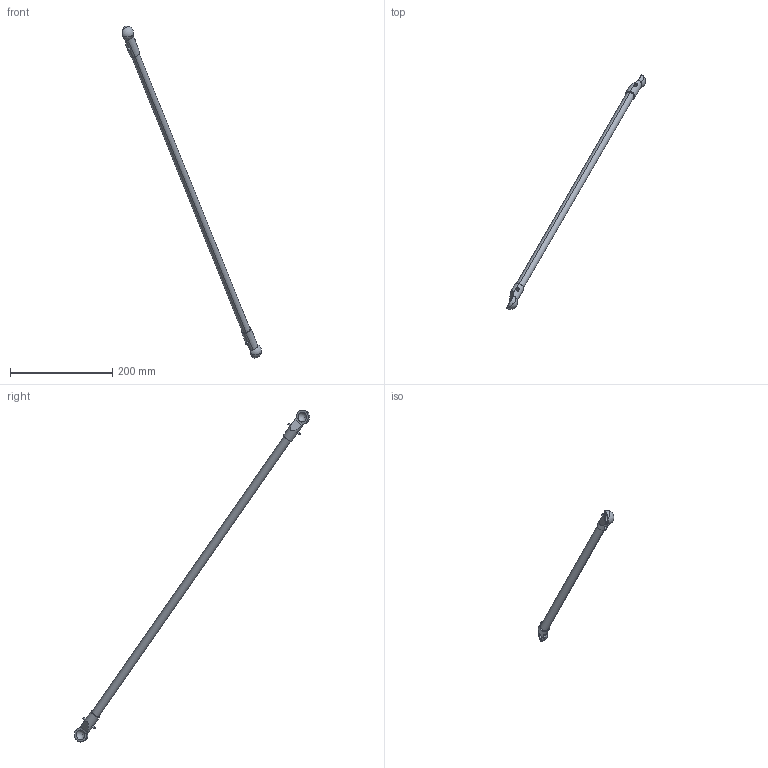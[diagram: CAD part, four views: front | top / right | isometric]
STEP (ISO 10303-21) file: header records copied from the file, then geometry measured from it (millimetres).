
FILE_DESCRIPTION (( 'STEP AP214' ), '1' );
FILE_NAME ('IRB360_8-1130-STD-4D_rev03_LA2_2_CAD.STEP', '2025-05-19T13:34:59', ( '' ), ( '' ), 'SwSTEP 2.0', 'SolidWorks 2022', '' );
FILE_SCHEMA (( 'AUTOMOTIVE_DESIGN' ));
Length unit declared in the file: millimetre
Products named in the file (1): IRB360_8-1130-STD-4D_rev03_LA2_2_CAD
Bounding box: 272.71 x 461.21 x 650.94 mm (x, y, z)
Volume: 172342 mm3; surface area: 44609 mm2
Topology: 1 solids, 1 shells, 38 faces, 99 edges, 63 vertices
Faces by surface type: cylinder 16, sphere 12, plane 10
Entity records: 1484 total; most frequent: CARTESIAN_POINT 435, DIRECTION 188, ORIENTED_EDGE 174, EDGE_CURVE 87, AXIS2_PLACEMENT_3D 84, VERTEX_POINT 57, CIRCLE 45, EDGE_LOOP 44
